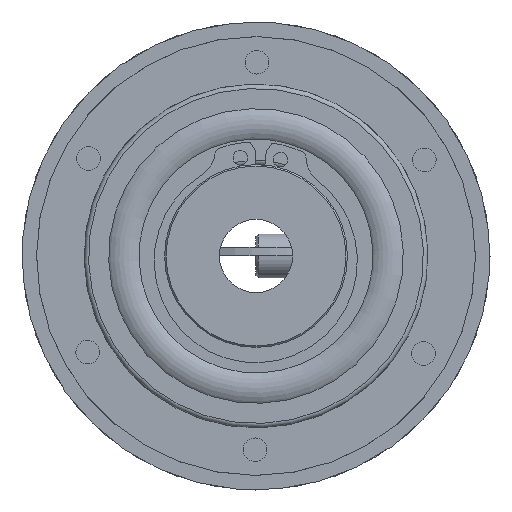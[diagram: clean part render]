
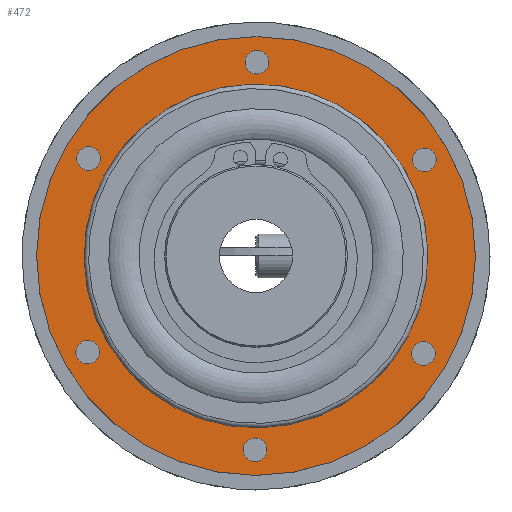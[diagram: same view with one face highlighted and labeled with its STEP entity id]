
A CAD part, left-side view. The second image highlights one B-rep face of the part: STEP entity #472.
In plain terms, the highlighted planar face has unit normal (-1, 0, 0).
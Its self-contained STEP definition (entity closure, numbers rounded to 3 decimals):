
#472 = ADVANCED_FACE( '', ( #777, #778, #779, #780, #781, #782, #783, #784 ), #785, .F. );
#777 = FACE_OUTER_BOUND( '', #1105, .T. );
#778 = FACE_BOUND( '', #1106, .T. );
#779 = FACE_BOUND( '', #1107, .T. );
#780 = FACE_BOUND( '', #1108, .T. );
#781 = FACE_BOUND( '', #1109, .T. );
#782 = FACE_BOUND( '', #1110, .T. );
#783 = FACE_BOUND( '', #1111, .T. );
#784 = FACE_BOUND( '', #1112, .T. );
#785 = PLANE( '', #1113 );
#1105 = EDGE_LOOP( '', ( #1688 ) );
#1106 = EDGE_LOOP( '', ( #1689 ) );
#1107 = EDGE_LOOP( '', ( #1690 ) );
#1108 = EDGE_LOOP( '', ( #1691 ) );
#1109 = EDGE_LOOP( '', ( #1692 ) );
#1110 = EDGE_LOOP( '', ( #1693 ) );
#1111 = EDGE_LOOP( '', ( #1694 ) );
#1112 = EDGE_LOOP( '', ( #1695 ) );
#1113 = AXIS2_PLACEMENT_3D( '', #1696, #1697, #1698 );
#1688 = ORIENTED_EDGE( '', *, *, #2391, .T. );
#1689 = ORIENTED_EDGE( '', *, *, #2390, .T. );
#1690 = ORIENTED_EDGE( '', *, *, #2388, .T. );
#1691 = ORIENTED_EDGE( '', *, *, #2389, .T. );
#1692 = ORIENTED_EDGE( '', *, *, #2392, .T. );
#1693 = ORIENTED_EDGE( '', *, *, #2393, .T. );
#1694 = ORIENTED_EDGE( '', *, *, #2394, .T. );
#1695 = ORIENTED_EDGE( '', *, *, #2395, .F. );
#1696 = CARTESIAN_POINT( '', ( -12., 30., 0. ) );
#1697 = DIRECTION( '', ( 1., 0., 0. ) );
#1698 = DIRECTION( '', ( 0., 1., 0. ) );
#2388 = EDGE_CURVE( '', #2678, #2678, #2679, .T. );
#2389 = EDGE_CURVE( '', #2680, #2680, #2681, .T. );
#2390 = EDGE_CURVE( '', #2682, #2682, #2683, .T. );
#2391 = EDGE_CURVE( '', #2684, #2684, #2685, .T. );
#2392 = EDGE_CURVE( '', #2686, #2686, #2687, .T. );
#2393 = EDGE_CURVE( '', #2688, #2688, #2689, .T. );
#2394 = EDGE_CURVE( '', #2690, #2690, #2691, .T. );
#2395 = EDGE_CURVE( '', #2692, #2692, #2693, .T. );
#2678 = VERTEX_POINT( '', #3048 );
#2679 = CIRCLE( '', #3049, 1.621 );
#2680 = VERTEX_POINT( '', #3050 );
#2681 = CIRCLE( '', #3051, 1.621 );
#2682 = VERTEX_POINT( '', #3052 );
#2683 = CIRCLE( '', #3053, 1.621 );
#2684 = VERTEX_POINT( '', #3054 );
#2685 = CIRCLE( '', #3055, 30. );
#2686 = VERTEX_POINT( '', #3056 );
#2687 = CIRCLE( '', #3057, 1.621 );
#2688 = VERTEX_POINT( '', #3058 );
#2689 = CIRCLE( '', #3059, 1.621 );
#2690 = VERTEX_POINT( '', #3060 );
#2691 = CIRCLE( '', #3061, 1.621 );
#2692 = VERTEX_POINT( '', #3062 );
#2693 = CIRCLE( '', #3063, 23.5 );
#3048 = CARTESIAN_POINT( '', ( -12., 24.354, -14.061 ) );
#3049 = AXIS2_PLACEMENT_3D( '', #3649, #3650, #3651 );
#3050 = CARTESIAN_POINT( '', ( -12., 0., -28.121 ) );
#3051 = AXIS2_PLACEMENT_3D( '', #3652, #3653, #3654 );
#3052 = CARTESIAN_POINT( '', ( -12., 24.354, 14.061 ) );
#3053 = AXIS2_PLACEMENT_3D( '', #3655, #3656, #3657 );
#3054 = CARTESIAN_POINT( '', ( -12., 0., 30. ) );
#3055 = AXIS2_PLACEMENT_3D( '', #3658, #3659, #3660 );
#3056 = CARTESIAN_POINT( '', ( -12., -24.354, -14.061 ) );
#3057 = AXIS2_PLACEMENT_3D( '', #3661, #3662, #3663 );
#3058 = CARTESIAN_POINT( '', ( -12., -24.354, 14.061 ) );
#3059 = AXIS2_PLACEMENT_3D( '', #3664, #3665, #3666 );
#3060 = CARTESIAN_POINT( '', ( -12., 0., 28.121 ) );
#3061 = AXIS2_PLACEMENT_3D( '', #3667, #3668, #3669 );
#3062 = CARTESIAN_POINT( '', ( -12., 0., 23.5 ) );
#3063 = AXIS2_PLACEMENT_3D( '', #3670, #3671, #3672 );
#3649 = CARTESIAN_POINT( '', ( -12., 22.95, -13.25 ) );
#3650 = DIRECTION( '', ( 1., 0., 0. ) );
#3651 = DIRECTION( '', ( 0., 0.866, -0.5 ) );
#3652 = CARTESIAN_POINT( '', ( -12., 0., -26.5 ) );
#3653 = DIRECTION( '', ( 1., 0., 0. ) );
#3654 = DIRECTION( '', ( 0., 0., -1. ) );
#3655 = CARTESIAN_POINT( '', ( -12., 22.95, 13.25 ) );
#3656 = DIRECTION( '', ( 1., 0., 0. ) );
#3657 = DIRECTION( '', ( 0., 0.866, 0.5 ) );
#3658 = CARTESIAN_POINT( '', ( -12., 0., 0. ) );
#3659 = DIRECTION( '', ( -1., 0., 0. ) );
#3660 = DIRECTION( '', ( 0., 0., 1. ) );
#3661 = CARTESIAN_POINT( '', ( -12., -22.95, -13.25 ) );
#3662 = DIRECTION( '', ( 1., 0., 0. ) );
#3663 = DIRECTION( '', ( 0., -0.866, -0.5 ) );
#3664 = CARTESIAN_POINT( '', ( -12., -22.95, 13.25 ) );
#3665 = DIRECTION( '', ( 1., 0., 0. ) );
#3666 = DIRECTION( '', ( 0., -0.866, 0.5 ) );
#3667 = CARTESIAN_POINT( '', ( -12., 0., 26.5 ) );
#3668 = DIRECTION( '', ( 1., 0., 0. ) );
#3669 = DIRECTION( '', ( 0., 0., 1. ) );
#3670 = CARTESIAN_POINT( '', ( -12., 0., 0. ) );
#3671 = DIRECTION( '', ( -1., 0., 0. ) );
#3672 = DIRECTION( '', ( 0., 0., 1. ) );
